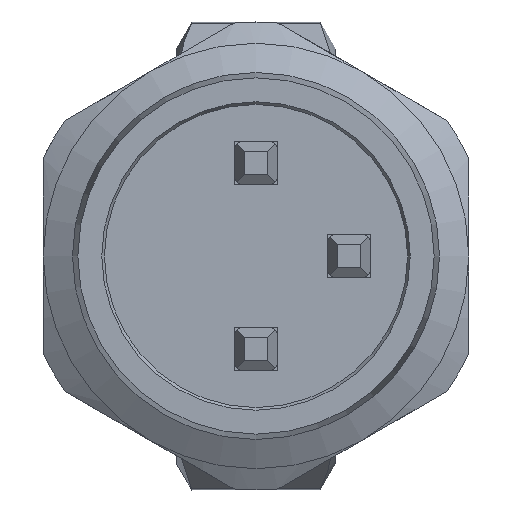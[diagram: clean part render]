
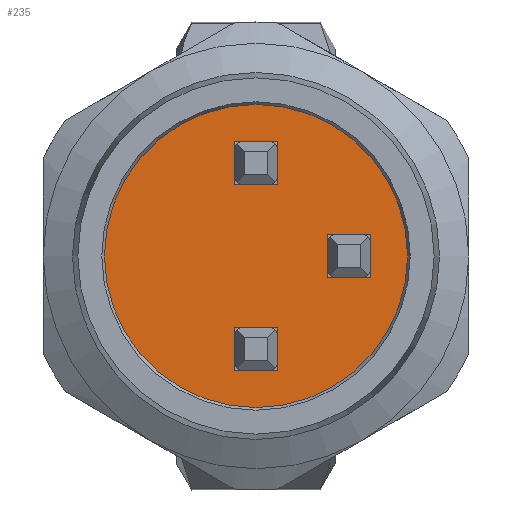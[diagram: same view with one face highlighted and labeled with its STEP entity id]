
A CAD part, left-side view. The second image highlights one B-rep face of the part: STEP entity #235.
In plain terms, the highlighted planar face has unit normal (-1, 0, 0) as drawn and (1, 0, 0) by its records, which use the part's own axes.
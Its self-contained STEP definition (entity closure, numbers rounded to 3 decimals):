
#235 = ADVANCED_FACE( '', ( #346, #347, #348, #349 ), #350, .T. );
#346 = FACE_BOUND( '', #582, .T. );
#347 = FACE_BOUND( '', #583, .T. );
#348 = FACE_BOUND( '', #584, .T. );
#349 = FACE_OUTER_BOUND( '', #585, .T. );
#350 = PLANE( '', #586 );
#582 = EDGE_LOOP( '', ( #830, #831, #832, #833 ) );
#583 = EDGE_LOOP( '', ( #834, #835, #836, #837 ) );
#584 = EDGE_LOOP( '', ( #838, #839, #840, #841 ) );
#585 = EDGE_LOOP( '', ( #842 ) );
#586 = AXIS2_PLACEMENT_3D( '', #843, #844, #845 );
#830 = ORIENTED_EDGE( '', *, *, #1536, .T. );
#831 = ORIENTED_EDGE( '', *, *, #1537, .T. );
#832 = ORIENTED_EDGE( '', *, *, #1538, .T. );
#833 = ORIENTED_EDGE( '', *, *, #1539, .F. );
#834 = ORIENTED_EDGE( '', *, *, #1540, .T. );
#835 = ORIENTED_EDGE( '', *, *, #1541, .T. );
#836 = ORIENTED_EDGE( '', *, *, #1542, .T. );
#837 = ORIENTED_EDGE( '', *, *, #1543, .F. );
#838 = ORIENTED_EDGE( '', *, *, #1544, .T. );
#839 = ORIENTED_EDGE( '', *, *, #1545, .T. );
#840 = ORIENTED_EDGE( '', *, *, #1546, .T. );
#841 = ORIENTED_EDGE( '', *, *, #1547, .F. );
#842 = ORIENTED_EDGE( '', *, *, #1534, .F. );
#843 = CARTESIAN_POINT( '', ( 20.3, -0.4, -0.45 ) );
#844 = DIRECTION( '', ( 1., 0., 0. ) );
#845 = DIRECTION( '', ( 0., 0., -1. ) );
#1534 = EDGE_CURVE( '', #1752, #1752, #1753, .F. );
#1536 = EDGE_CURVE( '', #1756, #1757, #1758, .T. );
#1537 = EDGE_CURVE( '', #1757, #1759, #1760, .T. );
#1538 = EDGE_CURVE( '', #1759, #1761, #1762, .T. );
#1539 = EDGE_CURVE( '', #1756, #1761, #1763, .T. );
#1540 = EDGE_CURVE( '', #1764, #1765, #1766, .T. );
#1541 = EDGE_CURVE( '', #1765, #1767, #1768, .T. );
#1542 = EDGE_CURVE( '', #1767, #1769, #1770, .T. );
#1543 = EDGE_CURVE( '', #1764, #1769, #1771, .T. );
#1544 = EDGE_CURVE( '', #1772, #1773, #1774, .T. );
#1545 = EDGE_CURVE( '', #1773, #1775, #1776, .T. );
#1546 = EDGE_CURVE( '', #1775, #1777, #1778, .T. );
#1547 = EDGE_CURVE( '', #1772, #1777, #1779, .T. );
#1752 = VERTEX_POINT( '', #2120 );
#1753 = CIRCLE( '', #2121, 2.85 );
#1756 = VERTEX_POINT( '', #2124 );
#1757 = VERTEX_POINT( '', #2125 );
#1758 = LINE( '', #2126, #2127 );
#1759 = VERTEX_POINT( '', #2128 );
#1760 = LINE( '', #2129, #2130 );
#1761 = VERTEX_POINT( '', #2131 );
#1762 = LINE( '', #2132, #2133 );
#1763 = LINE( '', #2134, #2135 );
#1764 = VERTEX_POINT( '', #2136 );
#1765 = VERTEX_POINT( '', #2137 );
#1766 = LINE( '', #2138, #2139 );
#1767 = VERTEX_POINT( '', #2140 );
#1768 = LINE( '', #2141, #2142 );
#1769 = VERTEX_POINT( '', #2143 );
#1770 = LINE( '', #2144, #2145 );
#1771 = LINE( '', #2146, #2147 );
#1772 = VERTEX_POINT( '', #2148 );
#1773 = VERTEX_POINT( '', #2149 );
#1774 = LINE( '', #2150, #2151 );
#1775 = VERTEX_POINT( '', #2152 );
#1776 = LINE( '', #2153, #2154 );
#1777 = VERTEX_POINT( '', #2155 );
#1778 = LINE( '', #2156, #2157 );
#1779 = LINE( '', #2158, #2159 );
#2120 = CARTESIAN_POINT( '', ( 20.3, 0., -2.85 ) );
#2121 = AXIS2_PLACEMENT_3D( '', #2902, #2903, #2904 );
#2124 = CARTESIAN_POINT( '', ( 20.3, -0.4, -1.35 ) );
#2125 = CARTESIAN_POINT( '', ( 20.3, 0.4, -1.35 ) );
#2126 = CARTESIAN_POINT( '', ( 20.3, -0.4, -1.35 ) );
#2127 = VECTOR( '', #2908, 1000. );
#2128 = CARTESIAN_POINT( '', ( 20.3, 0.4, -2.15 ) );
#2129 = CARTESIAN_POINT( '', ( 20.3, 0.4, -0.45 ) );
#2130 = VECTOR( '', #2909, 1000. );
#2131 = CARTESIAN_POINT( '', ( 20.3, -0.4, -2.15 ) );
#2132 = CARTESIAN_POINT( '', ( 20.3, -0.4, -2.15 ) );
#2133 = VECTOR( '', #2910, 1000. );
#2134 = CARTESIAN_POINT( '', ( 20.3, -0.4, -0.45 ) );
#2135 = VECTOR( '', #2911, 1000. );
#2136 = CARTESIAN_POINT( '', ( 20.3, 2.15, -0.4 ) );
#2137 = CARTESIAN_POINT( '', ( 20.3, 1.35, -0.4 ) );
#2138 = CARTESIAN_POINT( '', ( 20.3, 2.15, -0.4 ) );
#2139 = VECTOR( '', #2912, 1000. );
#2140 = CARTESIAN_POINT( '', ( 20.3, 1.35, 0.4 ) );
#2141 = CARTESIAN_POINT( '', ( 20.3, 1.35, -1.3 ) );
#2142 = VECTOR( '', #2913, 1000. );
#2143 = CARTESIAN_POINT( '', ( 20.3, 2.15, 0.4 ) );
#2144 = CARTESIAN_POINT( '', ( 20.3, 2.15, 0.4 ) );
#2145 = VECTOR( '', #2914, 1000. );
#2146 = CARTESIAN_POINT( '', ( 20.3, 2.15, -1.3 ) );
#2147 = VECTOR( '', #2915, 1000. );
#2148 = CARTESIAN_POINT( '', ( 20.3, -1.35, -0.4 ) );
#2149 = CARTESIAN_POINT( '', ( 20.3, -2.15, -0.4 ) );
#2150 = CARTESIAN_POINT( '', ( 20.3, -1.35, -0.4 ) );
#2151 = VECTOR( '', #2916, 1000. );
#2152 = CARTESIAN_POINT( '', ( 20.3, -2.15, 0.4 ) );
#2153 = CARTESIAN_POINT( '', ( 20.3, -2.15, -1.3 ) );
#2154 = VECTOR( '', #2917, 1000. );
#2155 = CARTESIAN_POINT( '', ( 20.3, -1.35, 0.4 ) );
#2156 = CARTESIAN_POINT( '', ( 20.3, -1.35, 0.4 ) );
#2157 = VECTOR( '', #2918, 1000. );
#2158 = CARTESIAN_POINT( '', ( 20.3, -1.35, -1.3 ) );
#2159 = VECTOR( '', #2919, 1000. );
#2902 = CARTESIAN_POINT( '', ( 20.3, 0., 0. ) );
#2903 = DIRECTION( '', ( 1., 0., 0. ) );
#2904 = DIRECTION( '', ( 0., 0., -1. ) );
#2908 = DIRECTION( '', ( 0., 1., 0. ) );
#2909 = DIRECTION( '', ( 0., 0., -1. ) );
#2910 = DIRECTION( '', ( 0., -1., 0. ) );
#2911 = DIRECTION( '', ( 0., 0., -1. ) );
#2912 = DIRECTION( '', ( 0., -1., 0. ) );
#2913 = DIRECTION( '', ( 0., 0., 1. ) );
#2914 = DIRECTION( '', ( 0., 1., 0. ) );
#2915 = DIRECTION( '', ( 0., 0., 1. ) );
#2916 = DIRECTION( '', ( 0., -1., 0. ) );
#2917 = DIRECTION( '', ( 0., 0., 1. ) );
#2918 = DIRECTION( '', ( 0., 1., 0. ) );
#2919 = DIRECTION( '', ( 0., 0., 1. ) );
